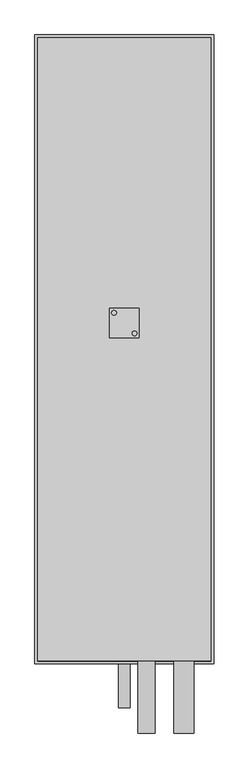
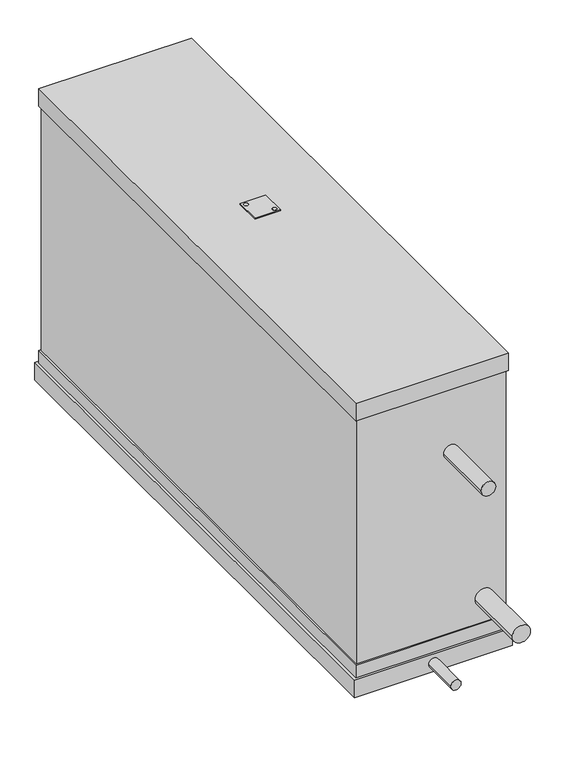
"""IFC4 building model written with IfcOpenShell, lengths in millimetres: proxy geometry, KORF_Воздухоохладитель_Фреоновый_FLO_Левый : FLO 90-50."""

from ifc_helpers import new_model, si_unit, point, frame, frame_2d, origin, place, context, project, spatial, polyline, circle_curve, trimmed, segment, composite_curve, outline, extrude, faceted_brep, source, transform, mapped, element, save


def mechanical_equipment_52775468(model_context):
    return source(origin(), model_context, "Body", "SolidModel", [
        extrude(outline(composite_curve([segment(trimmed(circle_curve(frame_2d((170.5727066, -17.5745746)), 4.0), [point((174.5727066, -17.5745746))], [point((166.5727066, -17.5745746))], False, "CARTESIAN"), True, "CONTINUOUS"), segment(trimmed(circle_curve(frame_2d((170.5727066, -17.5745746)), 4.0), [point((166.5727066, -17.5745746))], [point((174.5727066, -17.5745746))], False, "CARTESIAN"), True, "CONTINUOUS")], self_intersect=False)), frame((0.0, 0.0, 286.0), z_axis=(0.0, 0.0, 1.0), x_axis=(1.0, 0.0, 0.0)), (0.0, 0.0, 1.0), 2.0),
        extrude(outline(composite_curve([segment(trimmed(circle_curve(frame_2d((135.4272934, 17.5745746)), 4.0), [point((131.4272934, 17.5745746))], [point((139.4272934, 17.5745746))], False, "CARTESIAN"), True, "CONTINUOUS"), segment(trimmed(circle_curve(frame_2d((135.4272934, 17.5745746)), 4.0), [point((139.4272934, 17.5745746))], [point((131.4272934, 17.5745746))], False, "CARTESIAN"), True, "CONTINUOUS")], self_intersect=False)), frame((0.0, 0.0, 286.0), z_axis=(0.0, 0.0, 1.0), x_axis=(1.0, 0.0, 0.0)), (0.0, 0.0, 1.0), 2.0),
        extrude(outline(polyline([(128.0, -25.0), (128.0, 25.0), (178.0, 25.0), (178.0, -25.0), (128.0, -25.0)]), holes=[composite_curve([segment(trimmed(circle_curve(frame_2d((170.5727066, -17.5745746)), 4.0), [point((174.5727066, -17.5745746))], [point((166.5727066, -17.5745746))], True, "CARTESIAN"), True, "CONTINUOUS"), segment(trimmed(circle_curve(frame_2d((170.5727066, -17.5745746)), 4.0), [point((166.5727066, -17.5745746))], [point((174.5727066, -17.5745746))], True, "CARTESIAN"), True, "CONTINUOUS")], self_intersect=False), composite_curve([segment(trimmed(circle_curve(frame_2d((135.4272934, 17.5745746)), 4.0), [point((131.4272934, 17.5745746))], [point((139.4272934, 17.5745746))], True, "CARTESIAN"), True, "CONTINUOUS"), segment(trimmed(circle_curve(frame_2d((135.4272934, 17.5745746)), 4.0), [point((139.4272934, 17.5745746))], [point((131.4272934, 17.5745746))], True, "CARTESIAN"), True, "CONTINUOUS")], self_intersect=False)]), frame((0.0, 0.0, 286.0), z_axis=(0.0, 0.0, 1.0), x_axis=(1.0, 0.0, 0.0)), (0.0, 0.0, 1.0), 2.0),
        faceted_brep([(306.0, -582.0, -276.0), (306.0, -582.0, -312.0), (306.0, 492.0, -312.0), (306.0, 492.0, -276.0), (0.0, -582.0, -276.0), (0.0, 492.0, -276.0), (0.0, 492.0, -312.0), (0.0, -582.0, -312.0), (301.0, 487.0, -276.0), (301.0, -577.0, -276.0), (5.0, -577.0, -276.0), (5.0, 487.0, -276.0), (298.0, -574.0, 250.0), (298.0, -574.0, -250.0), (298.0, -450.0, -250.0), (298.0, 450.0, -250.0), (298.0, 484.0, -250.0), (298.0, 484.0, 250.0), (298.0, 450.0, 250.0), (298.0, -450.0, 250.0), (8.0, 484.0, 250.0), (8.0, 484.0, -250.0), (8.0, 450.0, -250.0), (8.0, -450.0, -250.0), (8.0, -574.0, -250.0), (8.0, -574.0, 250.0), (8.0, -450.0, 250.0), (8.0, 450.0, 250.0), (301.0, -577.0, 250.0), (301.0, 487.0, 250.0), (301.0, 487.0, 286.0), (301.0, -577.0, 286.0), (301.0, -577.0, -250.0), (301.0, 487.0, -250.0), (5.0, -577.0, 250.0), (5.0, -577.0, 286.0), (5.0, 487.0, 286.0), (5.0, 487.0, 250.0), (5.0, -577.0, -250.0), (5.0, 487.0, -250.0)], [[[0, 1, 2, 3]], [[4, 5, 6, 7]], [[1, 0, 4, 7]], [[2, 1, 7, 6]], [[3, 2, 6, 5]], [[0, 3, 5, 4], [8, 9, 10, 11]], [[12, 13, 14, 15, 16, 17, 18, 19]], [[20, 21, 22, 23, 24, 25, 26, 27]], [[13, 12, 25, 24]], [[17, 16, 21, 20]], [[28, 29, 30, 31]], [[32, 9, 8, 33]], [[34, 35, 36, 37]], [[38, 39, 11, 10]], [[29, 28, 34, 37], [12, 19, 18, 17, 20, 27, 26, 25]], [[30, 29, 37, 36]], [[31, 30, 36, 35]], [[28, 31, 35, 34]], [[9, 32, 38, 10]], [[33, 8, 11, 39]], [[32, 33, 39, 38], [14, 13, 24, 23, 22, 21, 16, 15]]]),
        extrude(outline(composite_curve([segment(trimmed(circle_curve(frame_2d((-199.0, 255.0)), 17.46), [point((-199.0, 237.54))], [point((-199.0, 272.46))], False, "CARTESIAN"), True, "CONTINUOUS"), segment(trimmed(circle_curve(frame_2d((-199.0, 255.0)), 17.46), [point((-199.0, 272.46))], [point((-199.0, 237.54))], False, "CARTESIAN"), True, "CONTINUOUS")], self_intersect=False)), frame((0.0, -700.0, 0.0), z_axis=(0.0, 1.0, 0.0), x_axis=(0.0, 0.0, 1.0)), (0.0, 0.0, 1.0), 126.0),
        extrude(outline(composite_curve([segment(trimmed(circle_curve(frame_2d((121.0, 191.0)), 14.285), [point((121.0, 176.715))], [point((121.0, 205.285))], False, "CARTESIAN"), True, "CONTINUOUS"), segment(trimmed(circle_curve(frame_2d((121.0, 191.0)), 14.285), [point((121.0, 205.285))], [point((121.0, 176.715))], False, "CARTESIAN"), True, "CONTINUOUS")], self_intersect=False)), frame((0.0, -700.0, 0.0), z_axis=(0.0, 1.0, 0.0), x_axis=(0.0, 0.0, 1.0)), (0.0, 0.0, 1.0), 126.0),
        extrude(outline(composite_curve([segment(trimmed(circle_curve(frame_2d((-294.0, 153.0)), 10.0), [point((-294.0, 143.0))], [point((-294.0, 163.0))], False, "CARTESIAN"), True, "CONTINUOUS"), segment(trimmed(circle_curve(frame_2d((-294.0, 153.0)), 10.0), [point((-294.0, 163.0))], [point((-294.0, 143.0))], False, "CARTESIAN"), True, "CONTINUOUS")], self_intersect=False)), frame((0.0, -657.0, 0.0), z_axis=(0.0, 1.0, 0.0), x_axis=(0.0, 0.0, 1.0)), (0.0, 0.0, 1.0), 75.0),
    ])


if __name__ == "__main__":
    model = new_model("IFC4")
    model_context = context("Model", 3, world=origin())
    ifc_project = project(units=[si_unit("LENGTHUNIT", "METRE", prefix="MILLI")], contexts=[model_context])
    site = spatial("IfcSite", under=ifc_project)
    building = spatial("IfcBuilding", under=site)
    placement = place(None, origin())
    mechanical_equipment_shape = mechanical_equipment_52775468(model_context)
    element("IfcBuildingElementProxy", 1, Name="KORF_Воздухоохладитель_Фреоновый_FLO_Левый : FLO 90-50", ObjectType="KORF_Воздухоохладитель_Фреоновый_FLO_Левый : FLO 90-50", at=placement, inside=building, context=model_context, shape_type="MappedRepresentation", body=[
        mapped(mechanical_equipment_shape, transform((0.0, 0.0, 0.0), x_axis=(1.0, 0.0, 0.0), y_axis=(0.0, 1.0, 0.0), z_axis=(0.0, 0.0, 1.0))),
    ])
    save(model, "model.ifc")
